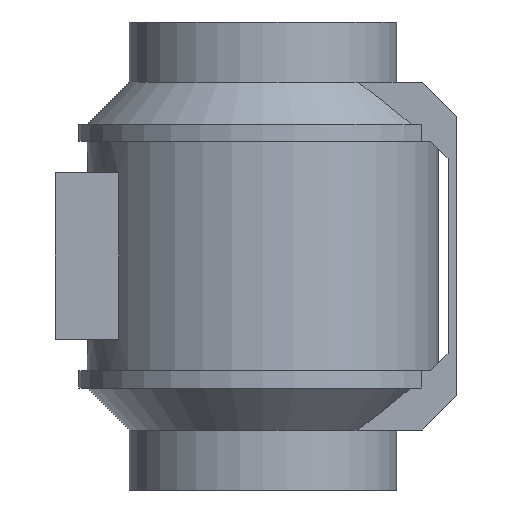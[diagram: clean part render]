
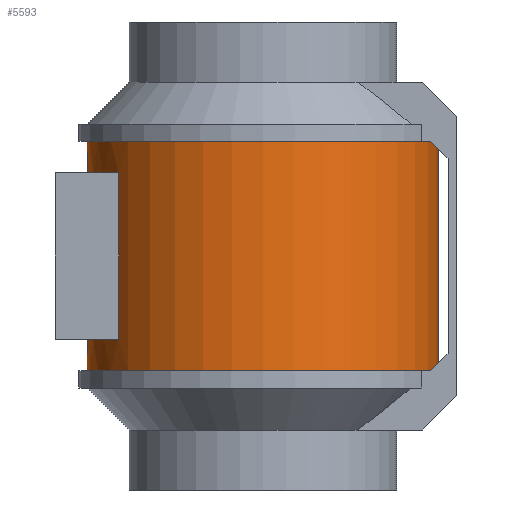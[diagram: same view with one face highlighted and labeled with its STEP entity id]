
A CAD part, front view. The second image highlights one B-rep face of the part: STEP entity #5593.
In plain terms, the highlighted cylindrical face has radius 102.5 mm (diameter 205 mm), a full revolution.
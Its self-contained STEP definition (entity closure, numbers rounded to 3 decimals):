
#186=FACE_BOUND('',#1065,.T.);
#244=CYLINDRICAL_SURFACE('',#5946,102.5);
#552=CIRCLE('',#5939,102.5);
#553=CIRCLE('',#5941,102.5);
#556=CIRCLE('',#5947,102.5);
#557=CIRCLE('',#5948,102.5);
#558=CIRCLE('',#5949,102.5);
#559=CIRCLE('',#5950,102.5);
#737=FACE_OUTER_BOUND('',#1064,.T.);
#1064=EDGE_LOOP('',(#3792,#3793,#3794,#3795,#3796,#3797));
#1065=EDGE_LOOP('',(#3798,#3799,#3800,#3801));
#1442=LINE('',#7831,#1951);
#1446=LINE('',#7840,#1955);
#1453=LINE('',#7865,#1962);
#1951=VECTOR('',#6400,10.);
#1955=VECTOR('',#6406,10.);
#1962=VECTOR('',#6435,102.5);
#2460=VERTEX_POINT('',#7829);
#2461=VERTEX_POINT('',#7830);
#2464=VERTEX_POINT('',#7838);
#2465=VERTEX_POINT('',#7839);
#2470=VERTEX_POINT('',#7860);
#2471=VERTEX_POINT('',#7861);
#2472=VERTEX_POINT('',#7864);
#2473=VERTEX_POINT('',#7866);
#2977=EDGE_CURVE('',#2460,#2461,#1442,.T.);
#2981=EDGE_CURVE('',#2464,#2465,#1446,.T.);
#2985=EDGE_CURVE('',#2461,#2464,#552,.T.);
#2987=EDGE_CURVE('',#2465,#2460,#553,.T.);
#2992=EDGE_CURVE('',#2470,#2471,#556,.T.);
#2993=EDGE_CURVE('',#2471,#2470,#557,.T.);
#2994=EDGE_CURVE('',#2471,#2472,#1453,.T.);
#2995=EDGE_CURVE('',#2472,#2473,#558,.T.);
#2996=EDGE_CURVE('',#2473,#2472,#559,.T.);
#3792=ORIENTED_EDGE('',*,*,#2992,.F.);
#3793=ORIENTED_EDGE('',*,*,#2993,.F.);
#3794=ORIENTED_EDGE('',*,*,#2994,.T.);
#3795=ORIENTED_EDGE('',*,*,#2995,.T.);
#3796=ORIENTED_EDGE('',*,*,#2996,.T.);
#3797=ORIENTED_EDGE('',*,*,#2994,.F.);
#3798=ORIENTED_EDGE('',*,*,#2981,.T.);
#3799=ORIENTED_EDGE('',*,*,#2987,.T.);
#3800=ORIENTED_EDGE('',*,*,#2977,.T.);
#3801=ORIENTED_EDGE('',*,*,#2985,.T.);
#5593=ADVANCED_FACE('',(#737,#186),#244,.T.);
#5939=AXIS2_PLACEMENT_3D('',#7847,#6412,#6413);
#5941=AXIS2_PLACEMENT_3D('',#7850,#6417,#6418);
#5946=AXIS2_PLACEMENT_3D('',#7859,#6429,#6430);
#5947=AXIS2_PLACEMENT_3D('',#7862,#6431,#6432);
#5948=AXIS2_PLACEMENT_3D('',#7863,#6433,#6434);
#5949=AXIS2_PLACEMENT_3D('',#7867,#6436,#6437);
#5950=AXIS2_PLACEMENT_3D('',#7868,#6438,#6439);
#6400=DIRECTION('',(0.,0.,-1.));
#6406=DIRECTION('',(0.,0.,1.));
#6412=DIRECTION('center_axis',(0.,0.,-1.));
#6413=DIRECTION('ref_axis',(-1.,0.,0.));
#6417=DIRECTION('center_axis',(0.,0.,1.));
#6418=DIRECTION('ref_axis',(-1.,0.,0.));
#6429=DIRECTION('center_axis',(0.,0.,-1.));
#6430=DIRECTION('ref_axis',(-1.,0.,0.));
#6431=DIRECTION('center_axis',(0.,0.,-1.));
#6432=DIRECTION('ref_axis',(1.,0.,0.));
#6433=DIRECTION('center_axis',(0.,0.,-1.));
#6434=DIRECTION('ref_axis',(1.,0.,0.));
#6435=DIRECTION('',(0.,0.,1.));
#6436=DIRECTION('center_axis',(0.,0.,-1.));
#6437=DIRECTION('ref_axis',(1.,0.,0.));
#6438=DIRECTION('center_axis',(0.,0.,-1.));
#6439=DIRECTION('ref_axis',(1.,0.,0.));
#7829=CARTESIAN_POINT('',(-84.167,-58.5,48.5));
#7830=CARTESIAN_POINT('',(-84.167,-58.5,-48.5));
#7831=CARTESIAN_POINT('',(-84.167,-58.5,0.));
#7838=CARTESIAN_POINT('',(-84.167,58.5,-48.5));
#7839=CARTESIAN_POINT('',(-84.167,58.5,48.5));
#7840=CARTESIAN_POINT('',(-84.167,58.5,0.));
#7847=CARTESIAN_POINT('Origin',(0.,0.,-48.5));
#7850=CARTESIAN_POINT('Origin',(0.,0.,48.5));
#7859=CARTESIAN_POINT('Origin',(0.,0.,0.));
#7860=CARTESIAN_POINT('',(-102.5,0.,-67.));
#7861=CARTESIAN_POINT('',(102.5,0.,-67.));
#7862=CARTESIAN_POINT('Origin',(0.,0.,-67.));
#7863=CARTESIAN_POINT('Origin',(0.,0.,-67.));
#7864=CARTESIAN_POINT('',(102.5,0.,67.));
#7865=CARTESIAN_POINT('',(102.5,0.,0.));
#7866=CARTESIAN_POINT('',(-102.5,0.,67.));
#7867=CARTESIAN_POINT('Origin',(0.,0.,67.));
#7868=CARTESIAN_POINT('Origin',(0.,0.,67.));
